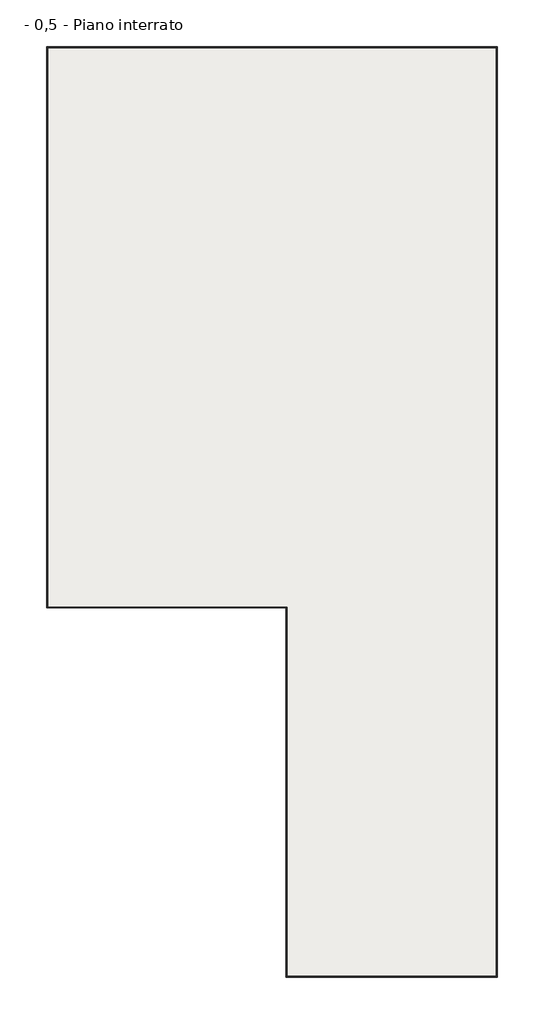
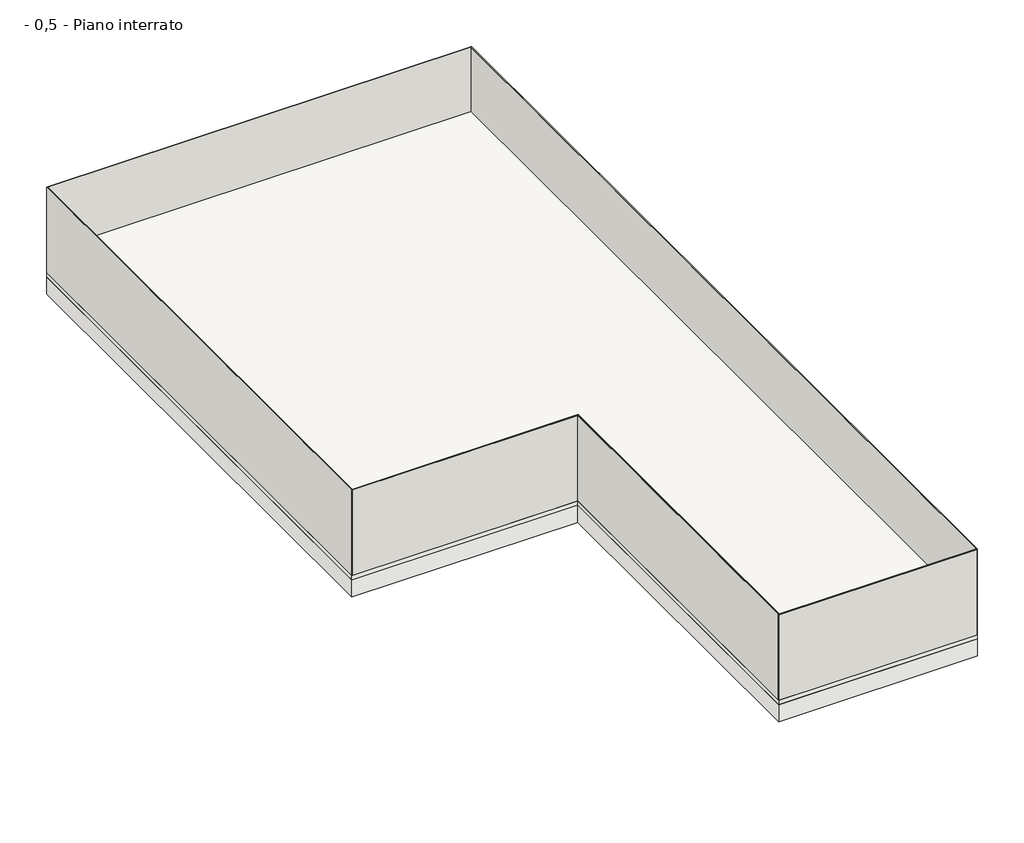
# One storey: 12 walls, 3 slabs.
"""IFC4 building model written with IfcOpenShell, lengths in millimetres."""

import ifcopenshell
import ifcopenshell.guid

model = None  # the IFC model being written
_history = None  # IfcOwnerHistory: only IFC2X3 demands one
_inside = {}  # id of a spatial element -> (the spatial element, [elements in it])
_under = {}  # id of a project, library or spatial element -> (it, [spatial elements below it])
_declared = {}  # id of a project -> (the project, [libraries it declares])
_typed = {}  # id of a type object -> (the type object, [elements of that type])
_made_of = {}  # id of a material, layer set ... -> (it, [elements and type objects made of it])


def new_model(schema):
    """Start an empty IFC model of exactly this schema.

    Asked for "IFC4X3", IfcOpenShell would pick the latest addendum, in which some entities
    have other attributes; the version numbers below select the first issue.
    IFC2X3 requires an IfcOwnerHistory on every rooted entity: one is made here for all.
    """
    global model, _history
    if schema == "IFC4X3":
        model = ifcopenshell.file(schema_version=(4, 3, 0, 0))
    else:
        model = ifcopenshell.file(schema=schema)
    _inside.clear()
    _under.clear()
    _declared.clear()
    _typed.clear()
    _made_of.clear()
    _history = None
    if model.schema == "IFC2X3":
        org = make("IfcOrganization", Name="unknown")
        user = make(
            "IfcPersonAndOrganization",
            ThePerson=make("IfcPerson", FamilyName="unknown"),
            TheOrganization=org,
        )
        app = make(
            "IfcApplication",
            ApplicationDeveloper=org,
            Version="unknown",
            ApplicationFullName="unknown",
            ApplicationIdentifier="unknown",
        )
        _history = make(
            "IfcOwnerHistory",
            OwningUser=user,
            OwningApplication=app,
            ChangeAction="ADDED",
            CreationDate=0,
        )
    return model


def make(cls, **values):
    """One entity of the class cls with the attributes given. An attribute that is None is left unset."""
    return model.create_entity(
        cls, **{name: value for name, value in values.items() if value is not None}
    )


def rooted(cls, **values):
    """An entity with a GlobalId (a new one), such as an element, a storey or a relation."""
    return make(cls, GlobalId=ifcopenshell.guid.new(), OwnerHistory=_history, **values)


def si_unit(unit_type, name, prefix=None):
    """IfcSIUnit, for example si_unit("LENGTHUNIT", "METRE", prefix="MILLI")."""
    return make("IfcSIUnit", UnitType=unit_type, Prefix=prefix, Name=name)


def assignment(units):
    """IfcUnitAssignment: the units of a project."""
    return None if units is None else make("IfcUnitAssignment", Units=units)


def point(xyz):
    """IfcCartesianPoint."""
    return None if xyz is None else make("IfcCartesianPoint", Coordinates=xyz)


def direction(xyz):
    """IfcDirection."""
    return None if xyz is None else make("IfcDirection", DirectionRatios=xyz)


def frame(location, z_axis=None, x_axis=None):
    """IfcAxis2Placement3D, a coordinate frame: its origin and axes. An axis left out is left unset."""
    return make(
        "IfcAxis2Placement3D",
        Location=point(location),
        Axis=direction(z_axis),
        RefDirection=direction(x_axis),
    )


def origin():
    """The frame at (0, 0, 0) with its axes left unset."""
    return frame((0.0, 0.0, 0.0))


def place(relative_to, where):
    """IfcLocalPlacement: puts the frame where relative to a parent placement (None: the world)."""
    return make(
        "IfcLocalPlacement", PlacementRelTo=relative_to, RelativePlacement=where
    )


def context(
    kind, dimensions, precision=None, world=None, true_north=None, identifier=None
):
    """IfcGeometricRepresentationContext, for example the 3D "Model" context."""
    return make(
        "IfcGeometricRepresentationContext",
        ContextIdentifier=identifier,
        ContextType=kind,
        CoordinateSpaceDimension=dimensions,
        Precision=precision,
        WorldCoordinateSystem=world,
        TrueNorth=true_north,
    )


def project(units=None, contexts=None):
    """IfcProject with its units and contexts."""
    return rooted(
        "IfcProject",
        Name="project",
        RepresentationContexts=contexts,
        UnitsInContext=assignment(units),
    )


def spatial(cls, under=None, at=None, **own):
    """A site, building, storey or space (cls), placed at a placement, below another one or the project."""
    s = rooted(cls, ObjectPlacement=at, **own)
    if under is not None:
        _under.setdefault(under.id(), (under, []))[1].append(s)
    return s


def polyline(points):
    """IfcPolyline through the points."""
    return make("IfcPolyline", Points=[point(p) for p in points])


def outline(outer, holes=None, kind="AREA"):
    """IfcArbitraryClosedProfileDef: a profile drawn as a closed curve; with holes, ...WithVoids."""
    if holes is None:
        return make("IfcArbitraryClosedProfileDef", ProfileType=kind, OuterCurve=outer)
    return make(
        "IfcArbitraryProfileDefWithVoids",
        ProfileType=kind,
        OuterCurve=outer,
        InnerCurves=holes,
    )


def extrude(swept, where, along, depth):
    """IfcExtrudedAreaSolid: the profile swept, set in the frame where, extruded along a direction by depth."""
    return make(
        "IfcExtrudedAreaSolid",
        SweptArea=swept,
        Position=where,
        ExtrudedDirection=direction(along),
        Depth=depth,
    )


def faces_of(points, faces, orient=None, outer=None):
    """IfcFace entities. A face is a list of loops; a loop is a list of indices into points, from 0.

    orient and outer hold one flag for each loop. By default every Orientation is true, the
    first loop of a face is its IfcFaceOuterBound and the others are IfcFaceBound.
    """
    made = []
    for i, loops in enumerate(faces):
        bounds = []
        for j, loop in enumerate(loops):
            is_outer = j == 0 if outer is None else outer[i][j]
            bounds.append(
                make(
                    "IfcFaceOuterBound" if is_outer else "IfcFaceBound",
                    Bound=make("IfcPolyLoop", Polygon=[points[k] for k in loop]),
                    Orientation=True if orient is None else orient[i][j],
                )
            )
        made.append(make("IfcFace", Bounds=bounds))
    return made


def faceted_brep(points, faces, orient=None, outer=None, voids=None):
    """IfcFacetedBrep: a solid bounded by flat faces; with voids (closed shells), ...WithVoids."""
    shared = [point(p) for p in points]
    hull = make("IfcClosedShell", CfsFaces=faces_of(shared, faces, orient, outer))
    if voids is None:
        return make("IfcFacetedBrep", Outer=hull)
    return make(
        "IfcFacetedBrepWithVoids",
        Outer=hull,
        Voids=[
            make(cls, CfsFaces=faces_of(shared, fs, o, b)) for cls, fs, o, b in voids
        ],
    )


def shape(context_of_items, identifier, shape_type, items):
    """IfcShapeRepresentation: the items that make up one representation, for example the "Body"."""
    return make(
        "IfcShapeRepresentation",
        ContextOfItems=context_of_items,
        RepresentationIdentifier=identifier,
        RepresentationType=shape_type,
        Items=items,
    )


def made_of(thing, what):
    """Note that an element or type object is made of a material, layer set ...; save() writes the relation."""
    if what is not None:
        _made_of.setdefault(what.id(), (what, []))[1].append(thing)
    return thing


def element(
    cls,
    number,
    at=None,
    inside=None,
    cuts=None,
    type_object=None,
    material=None,
    context=None,
    identifier="Body",
    shape_type=None,
    held_by="IfcProductDefinitionShape",
    body=None,
    shapes=None,
    **own,
):
    """One element of the class cls, such as IfcWall. Its Tag is "e" and its number.

    at: its placement. inside: the storey or other place that contains it. cuts: it is an
    opening in that element (IfcRelVoidsElement). A single representation is given by context,
    identifier, shape_type and body (its items); several are given by shapes. held_by: the class
    of the entity that holds the representations. save() writes the other relations.
    """
    e = rooted(cls, Tag="e%d" % number, ObjectPlacement=at, **own)
    if body is not None:
        shapes = [shape(context, identifier, shape_type, body)]
    if shapes is not None:
        e.Representation = make(held_by, Representations=shapes)
    if inside is not None:
        _inside.setdefault(inside.id(), (inside, []))[1].append(e)
    if cuts is not None:
        rooted(
            "IfcRelVoidsElement", RelatingBuildingElement=cuts, RelatedOpeningElement=e
        )
    if type_object is not None:
        _typed.setdefault(type_object.id(), (type_object, []))[1].append(e)
    return made_of(e, material)


def aggregate(whole, parts):
    """IfcRelAggregates: a whole, such as a stair, and the parts it consists of."""
    return rooted("IfcRelAggregates", RelatingObject=whole, RelatedObjects=parts)


def save(model, path):
    """Write the relations noted so far, then the file.

    IfcRelAggregates (storeys below a building ...), IfcRelContainedInSpatialStructure (elements
    in a storey), IfcRelDefinesByType, IfcRelAssociatesMaterial and IfcRelDeclares: one each for
    every whole, place, type object, material and project.
    """
    for whole, parts in _under.values():
        aggregate(whole, parts)
    for where, things in _inside.values():
        rooted(
            "IfcRelContainedInSpatialStructure",
            RelatedElements=things,
            RelatingStructure=where,
        )
    for kind, things in _typed.values():
        rooted("IfcRelDefinesByType", RelatedObjects=things, RelatingType=kind)
    for what, things in _made_of.values():
        rooted("IfcRelAssociatesMaterial", RelatedObjects=things, RelatingMaterial=what)
    for by, libraries in _declared.values():
        rooted("IfcRelDeclares", RelatingContext=by, RelatedDefinitions=libraries)
    model.write(path)


model = new_model("IFC4")

# Units and contexts
model_context = context("Model", 3, world=origin())
ifc_project = project(units=[si_unit("LENGTHUNIT", "METRE", prefix="MILLI")], contexts=[model_context])

# Site, building, storey
site = spatial("IfcSite", under=ifc_project)
building = spatial("IfcBuilding", under=site)
storey = spatial("IfcBuildingStorey", under=building, Name="- 0,5 - Piano interrato", Elevation=-2001.0)

# Slabs
placement = place(None, origin())
element("IfcSlab", 1, ObjectType="Blinding concrete", at=placement, inside=storey, context=model_context, shape_type="SweptSolid", body=[
    extrude(outline(polyline([(-4730.8494157, -6165.4646364), (-9730.8494157, -6165.4646364), (-9730.8494157, 5534.5353636), (-330.8494157, 5534.5353636), (-330.8494157, -13865.4646364), (-4730.8494157, -13865.4646364), (-4730.8494157, -6165.4646364)])), frame((0.0, 0.0, -2101.0), z_axis=(0.0, 0.0, 1.0), x_axis=(1.0, 0.0, 0.0)), (0.0, 0.0, 1.0), 100.0),
])
element("IfcSlab", 2, ObjectType="Ground", at=placement, inside=storey, context=model_context, shape_type="SweptSolid", body=[
    extrude(outline(polyline([(-330.8494157, 5534.5353636), (-330.8494157, -13865.4646364), (-4730.8494157, -13865.4646364), (-4730.8494157, -6165.4646364), (-9730.8494157, -6165.4646364), (-9730.8494157, 5534.5353636), (-330.8494157, 5534.5353636)])), frame((0.0, 0.0, -2501.0), z_axis=(0.0, 0.0, 1.0), x_axis=(1.0, 0.0, 0.0)), (0.0, 0.0, 1.0), 400.0),
])
element("IfcSlab", 3, ObjectType="Raft foundation", at=placement, inside=storey, context=model_context, shape_type="SweptSolid", body=[
    extrude(outline(polyline([(-9710.8494157, 5514.5353636), (-350.8494157, 5514.5353636), (-350.8494157, -13845.4646364), (-4710.8494157, -13845.4646364), (-4710.8494157, -6145.4646364), (-9710.8494157, -6145.4646364), (-9710.8494157, 5514.5353636)])), frame((0.0, 0.0, -2001.0), z_axis=(0.0, 0.0, 1.0), x_axis=(1.0, 0.0, 0.0)), (0.0, 0.0, 1.0), 500.0),
])

# Walls
element("IfcWall", 4, ObjectType="BI MORTAR PLASTER SEAL VOLTECO", at=placement, inside=storey, context=model_context, shape_type="Brep", body=[
    faceted_brep([(-9720.8494157, -6165.4646364, -2001.0), (-9720.8494157, -6155.4646364, -2001.0), (-9720.8494157, 5524.5353636, -2001.0), (-9720.8494157, 5534.5353636, -2001.0), (-9720.8494157, 5534.5353636, 0.0), (-9720.8494157, 5524.5353636, 0.0), (-9720.8494157, -6155.4646364, 0.0), (-9720.8494157, -6165.4646364, 0.0), (-9730.8494157, -6165.4646364, -2001.0), (-9730.8494157, -6165.4646364, 0.0), (-9730.8494157, 5534.5353636, 0.0), (-9730.8494157, 5534.5353636, -2001.0)], [[[0, 1, 2, 3, 4, 5, 6, 7]], [[8, 9, 10, 11]], [[3, 2, 1, 0, 8, 11]], [[7, 6, 5, 4, 10, 9]], [[4, 3, 11, 10]], [[0, 7, 9, 8]]]),
])
element("IfcWall", 5, ObjectType="BI MORTAR PLASTER SEAL VOLTECO", at=placement, inside=storey, context=model_context, shape_type="Brep", body=[
    faceted_brep([(-9720.8494157, 5524.5353636, -2001.0), (-9710.8494157, 5524.5353636, -2001.0), (-340.8494157, 5524.5353636, -2001.0), (-330.8494157, 5524.5353636, -2001.0), (-330.8494157, 5524.5353636, 0.0), (-340.8494157, 5524.5353636, 0.0), (-9710.8494157, 5524.5353636, 0.0), (-9720.8494157, 5524.5353636, 0.0), (-9720.8494157, 5534.5353636, -2001.0), (-9720.8494157, 5534.5353636, 0.0), (-330.8494157, 5534.5353636, 0.0), (-330.8494157, 5534.5353636, -2001.0)], [[[0, 1, 2, 3, 4, 5, 6, 7]], [[8, 9, 10, 11]], [[3, 2, 1, 0, 8, 11]], [[7, 6, 5, 4, 10, 9]], [[4, 3, 11, 10]], [[0, 7, 9, 8]]]),
])
element("IfcWall", 6, ObjectType="BI MORTAR PLASTER SEAL VOLTECO", at=placement, inside=storey, context=model_context, shape_type="Brep", body=[
    faceted_brep([(-340.8494157, 5524.5353636, -2001.0), (-340.8494157, 5514.5353636, -2001.0), (-340.8494157, -13855.4646364, -2001.0), (-340.8494157, -13865.4646364, -2001.0), (-340.8494157, -13865.4646364, 0.0), (-340.8494157, -13855.4646364, 0.0), (-340.8494157, 5514.5353636, 0.0), (-340.8494157, 5524.5353636, 0.0), (-330.8494157, 5524.5353636, -2001.0), (-330.8494157, 5524.5353636, 0.0), (-330.8494157, -13865.4646364, 0.0), (-330.8494157, -13865.4646364, -2001.0)], [[[0, 1, 2, 3, 4, 5, 6, 7]], [[8, 9, 10, 11]], [[3, 2, 1, 0, 8, 11]], [[7, 6, 5, 4, 10, 9]], [[4, 3, 11, 10]], [[0, 7, 9, 8]]]),
])
element("IfcWall", 7, ObjectType="BI MORTAR PLASTER SEAL VOLTECO", at=placement, inside=storey, context=model_context, shape_type="Brep", body=[
    faceted_brep([(-340.8494157, -13855.4646364, -2001.0), (-350.8494157, -13855.4646364, -2001.0), (-4720.8494157, -13855.4646364, -2001.0), (-4730.8494157, -13855.4646364, -2001.0), (-4730.8494157, -13855.4646364, 0.0), (-4720.8494157, -13855.4646364, 0.0), (-350.8494157, -13855.4646364, 0.0), (-340.8494157, -13855.4646364, 0.0), (-340.8494157, -13865.4646364, -2001.0), (-340.8494157, -13865.4646364, 0.0), (-4730.8494157, -13865.4646364, 0.0), (-4730.8494157, -13865.4646364, -2001.0)], [[[0, 1, 2, 3, 4, 5, 6, 7]], [[8, 9, 10, 11]], [[3, 2, 1, 0, 8, 11]], [[7, 6, 5, 4, 10, 9]], [[4, 3, 11, 10]], [[0, 7, 9, 8]]]),
])
element("IfcWall", 8, ObjectType="BI MORTAR PLASTER SEAL VOLTECO", at=placement, inside=storey, context=model_context, shape_type="Brep", body=[
    faceted_brep([(-4720.8494157, -13855.4646364, -2001.0), (-4720.8494157, -13845.4646364, -2001.0), (-4720.8494157, -6155.4646364, -2001.0), (-4720.8494157, -6155.4646364, 0.0), (-4720.8494157, -13845.4646364, 0.0), (-4720.8494157, -13855.4646364, 0.0), (-4730.8494157, -13855.4646364, -2001.0), (-4730.8494157, -13855.4646364, 0.0), (-4730.8494157, -6165.4646364, 0.0), (-4730.8494157, -6155.4646364, 0.0), (-4730.8494157, -6155.4646364, -2001.0), (-4730.8494157, -6165.4646364, -2001.0)], [[[0, 1, 2, 3, 4, 5]], [[6, 7, 8, 9, 10, 11]], [[2, 1, 0, 6, 11, 10]], [[5, 4, 3, 9, 8, 7]], [[0, 5, 7, 6]], [[3, 2, 10, 9]]]),
])
element("IfcWall", 9, ObjectType="BI MORTAR PLASTER SEAL VOLTECO", at=placement, inside=storey, context=model_context, shape_type="Brep", body=[
    faceted_brep([(-9720.8494157, -6165.4646364, -2001.0), (-4730.8494157, -6165.4646364, -2001.0), (-4730.8494157, -6165.4646364, 0.0), (-9720.8494157, -6165.4646364, 0.0), (-9720.8494157, -6155.4646364, -2001.0), (-9720.8494157, -6155.4646364, 0.0), (-9710.8494157, -6155.4646364, 0.0), (-4730.8494157, -6155.4646364, 0.0), (-4730.8494157, -6155.4646364, -2001.0), (-9710.8494157, -6155.4646364, -2001.0)], [[[0, 1, 2, 3]], [[4, 5, 6, 7, 8, 9]], [[1, 0, 4, 9, 8]], [[3, 2, 7, 6, 5]], [[2, 1, 8, 7]], [[0, 3, 5, 4]]]),
])
element("IfcWall", 10, ObjectType="BI MORTAR PLASTER SEAL VOLTECO", at=placement, inside=storey, context=model_context, shape_type="Brep", body=[
    faceted_brep([(-9710.8494157, -6155.4646364, -2001.0), (-9710.8494157, -6145.4646364, -2001.0), (-9710.8494157, 5514.5353636, -2001.0), (-9710.8494157, 5524.5353636, -2001.0), (-9710.8494157, 5524.5353636, 0.0), (-9710.8494157, 5514.5353636, 0.0), (-9710.8494157, -6145.4646364, 0.0), (-9710.8494157, -6155.4646364, 0.0), (-9720.8494157, -6155.4646364, -2001.0), (-9720.8494157, -6155.4646364, 0.0), (-9720.8494157, 5524.5353636, 0.0), (-9720.8494157, 5524.5353636, -2001.0)], [[[0, 1, 2, 3, 4, 5, 6, 7]], [[8, 9, 10, 11]], [[3, 2, 1, 0, 8, 11]], [[7, 6, 5, 4, 10, 9]], [[4, 3, 11, 10]], [[0, 7, 9, 8]]]),
])
element("IfcWall", 11, ObjectType="BI MORTAR PLASTER SEAL VOLTECO", at=placement, inside=storey, context=model_context, shape_type="Brep", body=[
    faceted_brep([(-9710.8494157, 5514.5353636, -2001.0), (-350.8494157, 5514.5353636, -2001.0), (-340.8494157, 5514.5353636, -2001.0), (-340.8494157, 5514.5353636, 0.0), (-350.8494157, 5514.5353636, 0.0), (-9710.8494157, 5514.5353636, 0.0), (-9710.8494157, 5524.5353636, -2001.0), (-9710.8494157, 5524.5353636, 0.0), (-340.8494157, 5524.5353636, 0.0), (-340.8494157, 5524.5353636, -2001.0)], [[[0, 1, 2, 3, 4, 5]], [[6, 7, 8, 9]], [[2, 1, 0, 6, 9]], [[5, 4, 3, 8, 7]], [[3, 2, 9, 8]], [[0, 5, 7, 6]]]),
])
element("IfcWall", 12, ObjectType="BI MORTAR PLASTER SEAL VOLTECO", at=placement, inside=storey, context=model_context, shape_type="Brep", body=[
    faceted_brep([(-350.8494157, 5514.5353636, -2001.0), (-350.8494157, -13845.4646364, -2001.0), (-350.8494157, -13855.4646364, -2001.0), (-350.8494157, -13855.4646364, -1991.0), (-350.8494157, -13855.4646364, -1981.0), (-350.8494157, -13855.4646364, 0.0), (-350.8494157, -13845.4646364, 0.0), (-350.8494157, 5514.5353636, 0.0), (-340.8494157, 5514.5353636, -2001.0), (-340.8494157, 5514.5353636, 0.0), (-340.8494157, -13855.4646364, 0.0), (-340.8494157, -13855.4646364, -2001.0)], [[[0, 1, 2, 3, 4, 5, 6, 7]], [[8, 9, 10, 11]], [[2, 1, 0, 8, 11]], [[7, 6, 5, 10, 9]], [[5, 4, 3, 2, 11, 10]], [[0, 7, 9, 8]]]),
])
element("IfcWall", 13, ObjectType="BI MORTAR PLASTER SEAL VOLTECO", at=placement, inside=storey, context=model_context, shape_type="Brep", body=[
    faceted_brep([(-350.8494157, -13845.4646364, -2001.0), (-4710.8494157, -13845.4646364, -2001.0), (-4720.8494157, -13845.4646364, -2001.0), (-4720.8494157, -13845.4646364, 0.0), (-4710.8494157, -13845.4646364, 0.0), (-350.8494157, -13845.4646364, 0.0), (-350.8494157, -13855.4646364, -2001.0), (-350.8494157, -13855.4646364, 0.0), (-4720.8494157, -13855.4646364, 0.0), (-4720.8494157, -13855.4646364, -2001.0)], [[[0, 1, 2, 3, 4, 5]], [[6, 7, 8, 9]], [[2, 1, 0, 6, 9]], [[5, 4, 3, 8, 7]], [[3, 2, 9, 8]], [[0, 5, 7, 6]]]),
])
element("IfcWall", 14, ObjectType="BI MORTAR PLASTER SEAL VOLTECO", at=placement, inside=storey, context=model_context, shape_type="Brep", body=[
    faceted_brep([(-4710.8494157, -13845.4646364, -2001.0), (-4710.8494157, -6145.4646364, -2001.0), (-4710.8494157, -6145.4646364, 0.0), (-4710.8494157, -13845.4646364, 0.0), (-4720.8494157, -13845.4646364, -2001.0), (-4720.8494157, -13845.4646364, 0.0), (-4720.8494157, -6155.4646364, 0.0), (-4720.8494157, -6145.4646364, 0.0), (-4720.8494157, -6145.4646364, -2001.0), (-4720.8494157, -6155.4646364, -2001.0)], [[[0, 1, 2, 3]], [[4, 5, 6, 7, 8, 9]], [[1, 0, 4, 9, 8]], [[3, 2, 7, 6, 5]], [[0, 3, 5, 4]], [[2, 1, 8, 7]]]),
])
element("IfcWall", 15, ObjectType="BI MORTAR PLASTER SEAL VOLTECO", at=placement, inside=storey, context=model_context, shape_type="SweptSolid", body=[
    extrude(outline(polyline([(-4720.8494157, -6155.4646364), (-9710.8494157, -6155.4646364), (-9710.8494157, -6145.4646364), (-4720.8494157, -6145.4646364), (-4720.8494157, -6155.4646364)])), frame((0.0, 0.0, -2001.0), z_axis=(0.0, 0.0, 1.0), x_axis=(1.0, 0.0, 0.0)), (0.0, 0.0, 1.0), 2001.0),
])

save(model, "model.ifc")
